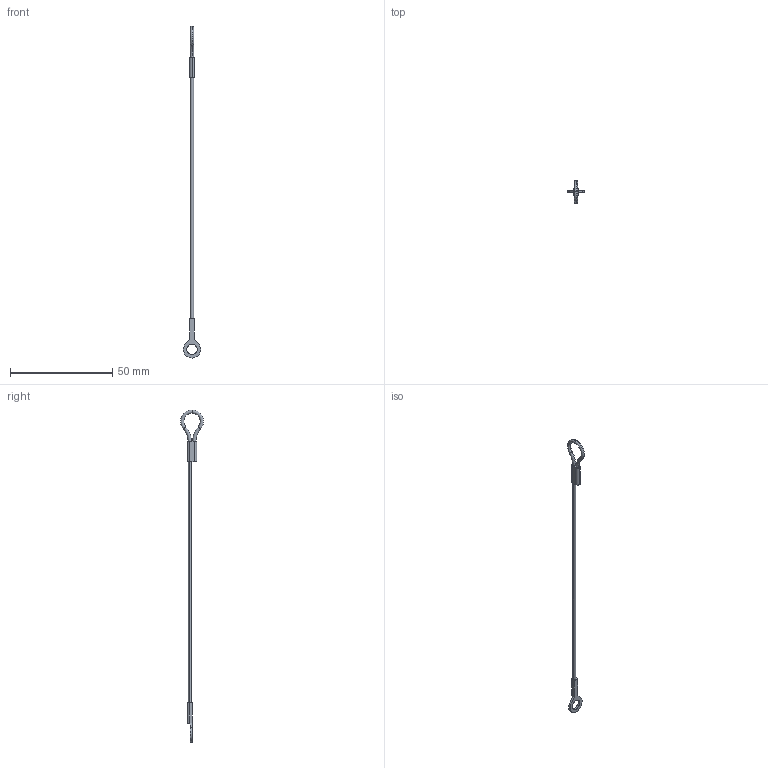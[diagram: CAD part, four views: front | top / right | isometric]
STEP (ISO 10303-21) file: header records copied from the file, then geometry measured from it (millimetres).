
FILE_DESCRIPTION (( 'STEP AP203' ), '1' );
FILE_NAME ('LA1075.I04-152G1.step', '2026-03-23T16:40:25', ( '' ), ( '' ), 'SwSTEP 2.0', 'SolidWorks 2019', '' );
FILE_SCHEMA (( 'CONFIG_CONTROL_DESIGN' ));
Length unit declared in the file: millimetre
Products named in the file (1): LA1075.I04-152G1
Bounding box: 8.36 x 11.16 x 162.19 mm (x, y, z)
Volume: 494.3 mm3; surface area: 1112.4 mm2
Topology: 1 solids, 1 shells, 30 faces, 70 edges, 44 vertices
Faces by surface type: plane 12, cylinder 10, torus 8
Entity records: 953 total; most frequent: DIRECTION 170, CARTESIAN_POINT 145, ORIENTED_EDGE 140, EDGE_CURVE 70, AXIS2_PLACEMENT_3D 69, VERTEX_POINT 44, CIRCLE 38, EDGE_LOOP 36
